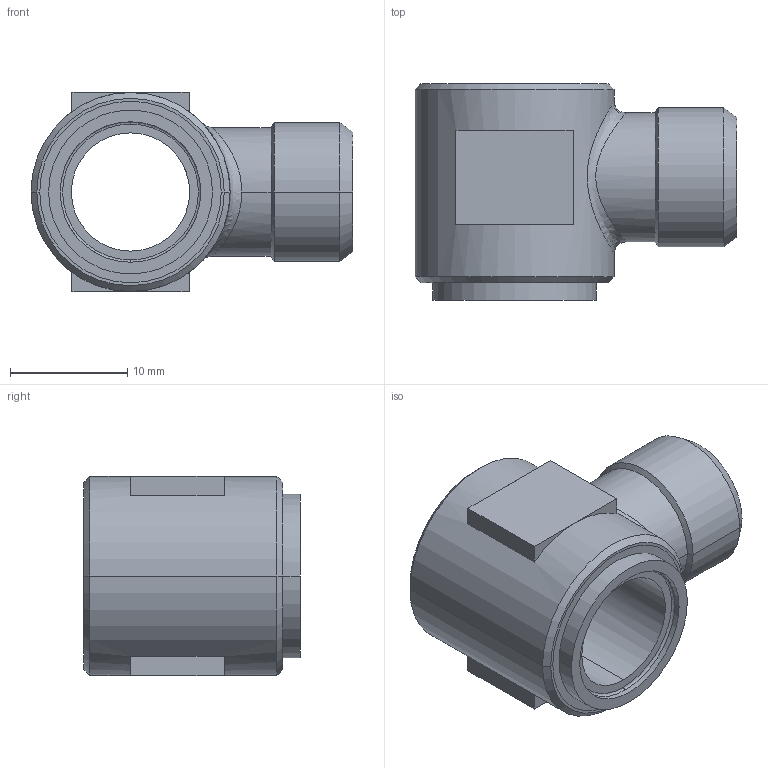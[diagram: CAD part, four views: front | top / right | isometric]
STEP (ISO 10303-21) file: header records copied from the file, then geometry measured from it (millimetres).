
FILE_DESCRIPTION((''),'2;1');
FILE_NAME('101303.stp','2007-10-30T15:43:08',(''),(''),'AutoCAD STEP 2000i','AutoCAD 2000i',', , ');
FILE_SCHEMA(('CONFIG_CONTROL_DESIGN'));
Length unit declared in the file: millimetre
Products named in the file (2): 101303.0; 1094#0
Assembly tree (1 placements, depth 2):
  101303.0
    1094#0
Bounding box: 27.5 x 18.5 x 17 mm (x, y, z)
Volume: 3235.5 mm3; surface area: 2525.3 mm2
Topology: 1 solids, 1 shells, 55 faces, 127 edges, 79 vertices
Faces by surface type: plane 20, cylinder 16, cone 14, bspline 5
Entity records: 2054 total; most frequent: CARTESIAN_POINT 669, DIRECTION 285, ORIENTED_EDGE 254, EDGE_CURVE 127, AXIS2_PLACEMENT_3D 115, VERTEX_POINT 79, EDGE_LOOP 64, CIRCLE 63
